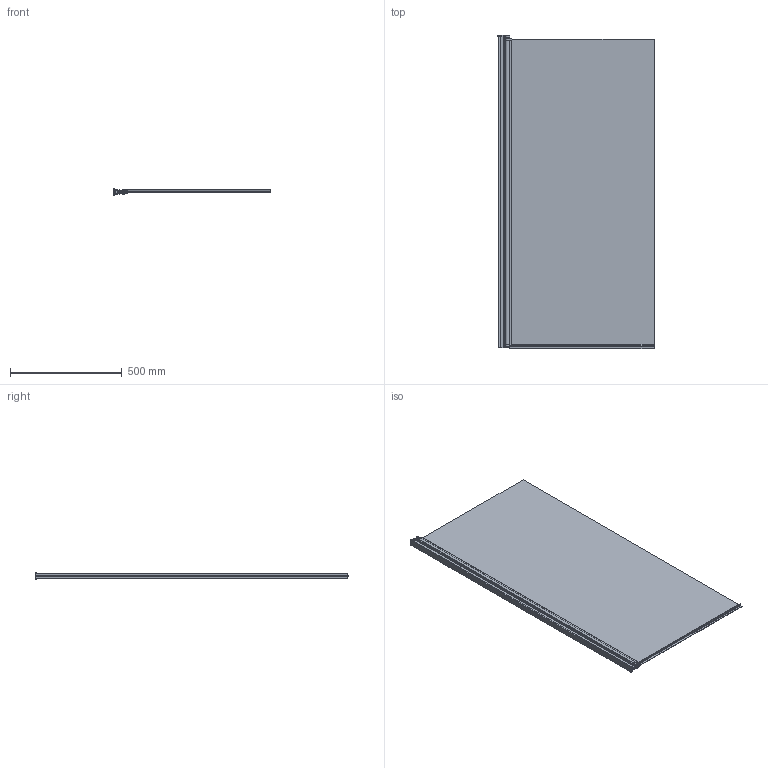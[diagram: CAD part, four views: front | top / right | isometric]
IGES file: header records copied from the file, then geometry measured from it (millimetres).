
Global section: file name: 62fc313f-9699-401d-8ed1-a0fcfd24b05f; native system: unknown; preprocessor: unknown; author: unknown; organization: unknown; date: 20200714.063202; units: millimetre
Bounding box: 699.04 x 1403.26 x 27.93 mm (x, y, z)
Volume: 5206621.6 mm3; surface area: 2332971.7 mm2
Topology: 11 solids, 11 shells, 397 faces, 1029 edges, 660 vertices
Faces by surface type: bspline 397
